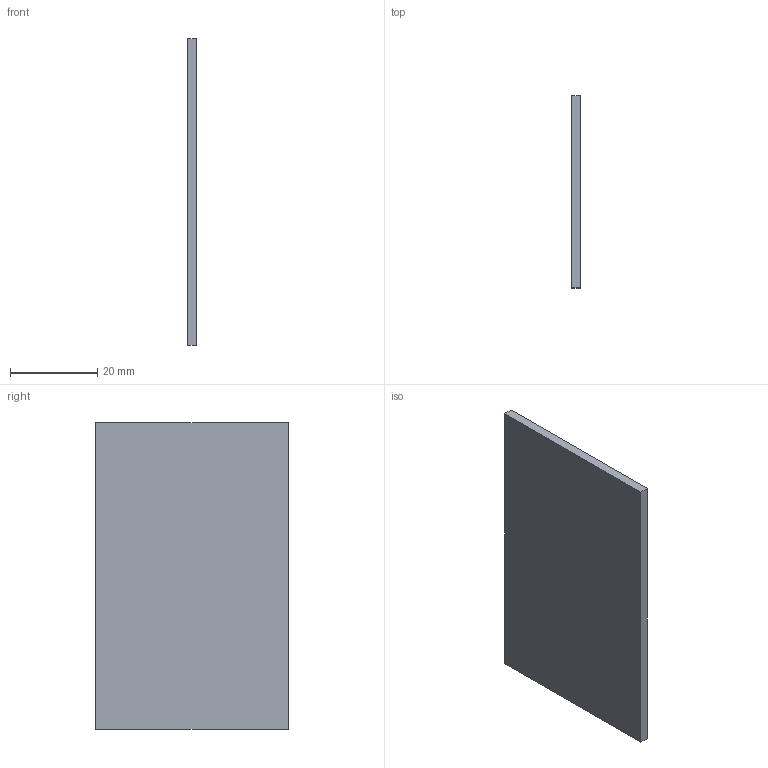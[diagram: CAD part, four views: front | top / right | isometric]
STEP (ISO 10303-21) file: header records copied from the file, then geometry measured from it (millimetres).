
FILE_DESCRIPTION(('FreeCAD Model'),'2;1');
FILE_NAME('Open CASCADE Shape Model','2026-10-19T19:41:49',('FreeCAD'),( 'FreeCAD'),'Open CASCADE STEP processor 7.8','FreeCAD','Unknown');
FILE_SCHEMA(('AUTOMOTIVE_DESIGN { 1 0 10303 214 1 1 1 1 }'));
Length unit declared in the file: millimetre
Products named in the file (1): Open CASCADE STEP translator 7.8 17
Bounding box: 2 x 44 x 70 mm (x, y, z)
Volume: 6160 mm3; surface area: 6616 mm2
Topology: 1 solids, 1 shells, 6 faces, 12 edges, 8 vertices
Faces by surface type: plane 6
Entity records: 166 total; most frequent: CARTESIAN_POINT 27, DIRECTION 26, ORIENTED_EDGE 24, EDGE_CURVE 12, LINE 12, VECTOR 12, VERTEX_POINT 8, AXIS2_PLACEMENT_3D 7
